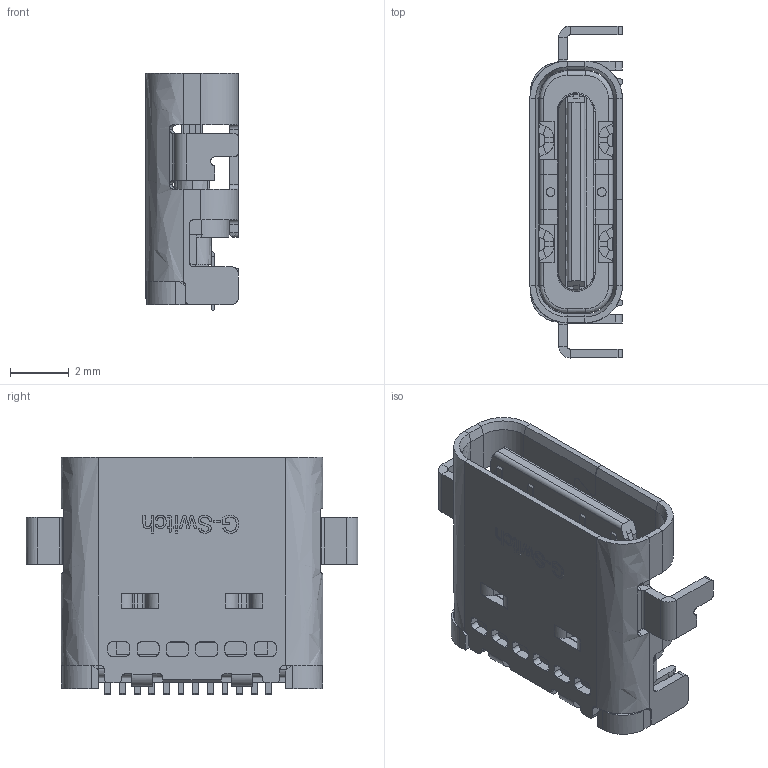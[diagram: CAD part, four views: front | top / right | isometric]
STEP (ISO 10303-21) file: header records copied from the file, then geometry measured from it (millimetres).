
FILE_DESCRIPTION (( 'STEP AP203' ), '1' );
FILE_NAME ('GT-USB-7007A.STEP', '2023-04-12T07:29:14', ( '' ), ( '' ), 'SwSTEP 2.0', 'SolidWorks 2023', '' );
FILE_SCHEMA (( 'CONFIG_CONTROL_DESIGN' ));
Length unit declared in the file: millimetre
Products named in the file (1): GT-USB-7007A
Bounding box: 3.17 x 11.34 x 8.1 mm (x, y, z)
Surface area: 1050.6 mm2 (no closed solid volume)
Topology: 0 solids, 1896 shells, 4799 faces, 22198 edges, 19120 vertices
Faces by surface type: bspline 4731, plane 68
Entity records: 216653 total; most frequent: CARTESIAN_POINT 107408, ORIENTED_EDGE 27749, EDGE_CURVE 22201, B_SPLINE_CURVE_WITH_KNOTS 19241, VERTEX_POINT 19134, EDGE_LOOP 4948, ADVANCED_FACE 4799, FACE_OUTER_BOUND 4799
